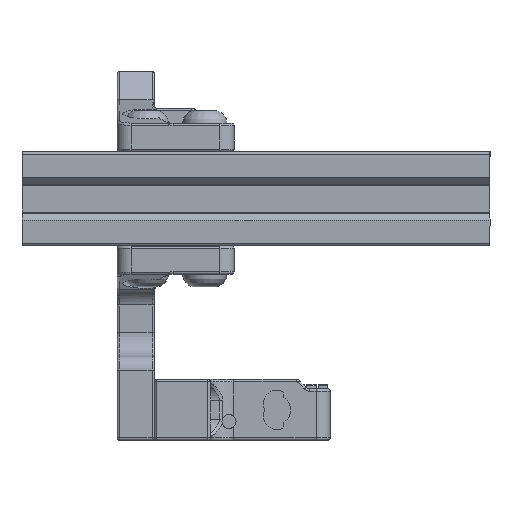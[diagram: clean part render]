
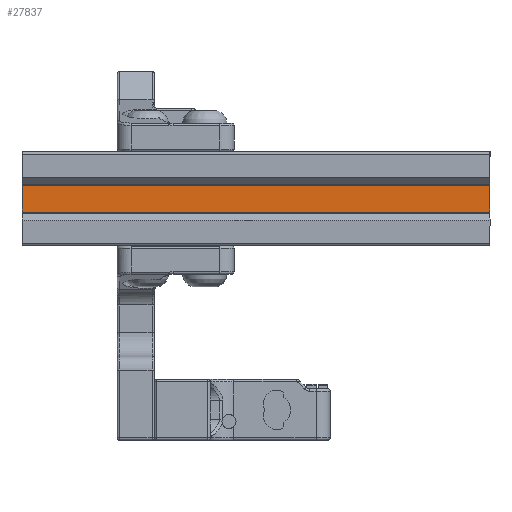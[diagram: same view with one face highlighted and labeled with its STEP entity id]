
A CAD part, front view. The second image highlights one B-rep face of the part: STEP entity #27837.
In plain terms, the highlighted planar face has unit normal (0, -1, 0).
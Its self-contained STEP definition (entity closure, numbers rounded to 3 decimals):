
#2514=PLANE('',#30851);
#4206=LINE('',#105411,#6019);
#4326=LINE('',#105662,#6139);
#4327=LINE('',#105665,#6140);
#4328=LINE('',#105666,#6141);
#6019=VECTOR('',#37696,10.);
#6139=VECTOR('',#37934,10.);
#6140=VECTOR('',#37937,10.);
#6141=VECTOR('',#37938,10.);
#8538=FACE_OUTER_BOUND('',#10274,.T.);
#10274=EDGE_LOOP('',(#26069,#26070,#26071,#26072));
#13756=VERTEX_POINT('',#105408);
#13757=VERTEX_POINT('',#105410);
#13829=VERTEX_POINT('',#105660);
#13830=VERTEX_POINT('',#105664);
#17802=EDGE_CURVE('',#13756,#13757,#4206,.T.);
#17928=EDGE_CURVE('',#13756,#13829,#4326,.T.);
#17929=EDGE_CURVE('',#13830,#13829,#4327,.F.);
#17930=EDGE_CURVE('',#13757,#13830,#4328,.T.);
#26069=ORIENTED_EDGE('',*,*,#17802,.F.);
#26070=ORIENTED_EDGE('',*,*,#17928,.T.);
#26071=ORIENTED_EDGE('',*,*,#17929,.F.);
#26072=ORIENTED_EDGE('',*,*,#17930,.F.);
#27837=ADVANCED_FACE('',(#8538),#2514,.T.);
#30851=AXIS2_PLACEMENT_3D('',#105663,#37935,#37936);
#37696=DIRECTION('',(0.,0.,1.));
#37934=DIRECTION('',(1.,0.,0.));
#37935=DIRECTION('center_axis',(0.,-1.,0.));
#37936=DIRECTION('ref_axis',(0.,0.,-1.));
#37937=DIRECTION('',(0.,0.,1.));
#37938=DIRECTION('',(1.,0.,0.));
#105408=CARTESIAN_POINT('',(-107.175,-113.923,-93.239));
#105410=CARTESIAN_POINT('',(-107.175,-113.923,-87.549));
#105411=CARTESIAN_POINT('',(-107.175,-113.923,-88.972));
#105660=CARTESIAN_POINT('',(-7.175,-113.923,-93.239));
#105662=CARTESIAN_POINT('',(-157.175,-113.923,-93.239));
#105663=CARTESIAN_POINT('Origin',(-157.175,-113.923,-87.549));
#105664=CARTESIAN_POINT('',(-7.175,-113.923,-87.549));
#105665=CARTESIAN_POINT('',(-7.175,-113.923,-88.972));
#105666=CARTESIAN_POINT('',(-157.175,-113.923,-87.549));
